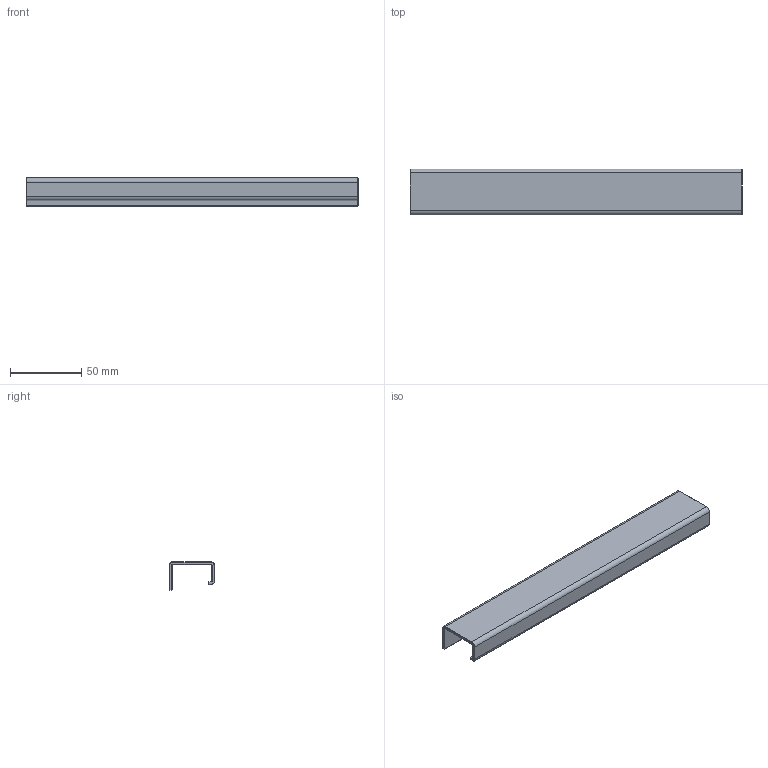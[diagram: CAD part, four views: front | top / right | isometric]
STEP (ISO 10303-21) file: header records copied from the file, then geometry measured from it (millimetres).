
FILE_DESCRIPTION(('Open CASCADE Model'),'2;1');
FILE_NAME('FL-LIP-233','2026-10-19T21:24:01',('Author'),('Open CASCADE') ,'Open CASCADE STEP processor 8.0','build123d','Unknown');
FILE_SCHEMA(('AUTOMOTIVE_DESIGN { 1 0 10303 214 1 1 1 1 }'));
Length unit declared in the file: millimetre
Products named in the file (2): FL-LIP-233; brass_FL-LIP233-18__e
Assembly tree (1 placements, depth 2):
  FL-LIP-233
    brass_FL-LIP233-18__e
Bounding box: 233 x 32 x 20 mm (x, y, z)
Volume: 29868.1 mm3; surface area: 30959.8 mm2
Topology: 1 solids, 1 shells, 64 faces, 146 edges, 84 vertices
Faces by surface type: plane 32, cone 20, cylinder 12
Full cylindrical faces by diameter (mm): 4.5 x2
Entity records: 3656 total; most frequent: CARTESIAN_POINT 764, DIRECTION 518, ORIENTED_EDGE 292, PCURVE 292, DEFINITIONAL_REPRESENTATION 292, LINE 290, VECTOR 290, EDGE_CURVE 146
